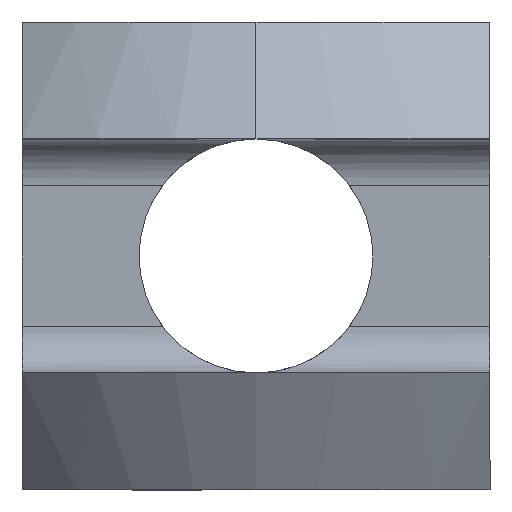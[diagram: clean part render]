
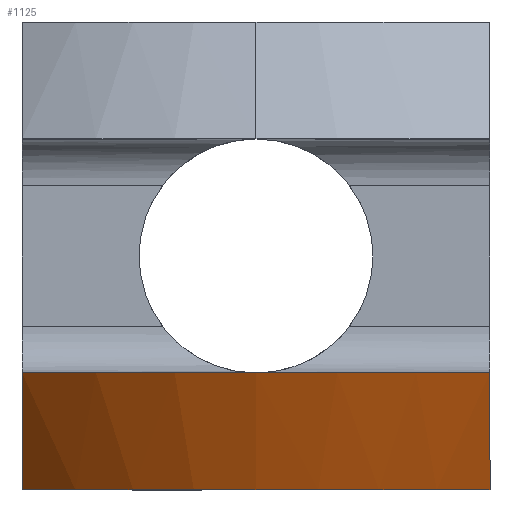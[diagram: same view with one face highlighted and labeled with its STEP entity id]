
A CAD part, left-side view. The second image highlights one B-rep face of the part: STEP entity #1125.
In plain terms, the highlighted conical face has half-angle 30 degrees and reference radius 10 mm.
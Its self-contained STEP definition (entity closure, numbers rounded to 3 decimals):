
#78 = EDGE_CURVE ( 'NONE', #79, #80, #340, .T. ) ;
#79 = VERTEX_POINT ( 'NONE', #336 ) ;
#80 = VERTEX_POINT ( 'NONE', #335 ) ;
#97 = EDGE_CURVE ( 'NONE', #98, #143, #313, .T. ) ;
#98 = VERTEX_POINT ( 'NONE', #314 ) ;
#143 = VERTEX_POINT ( 'NONE', #452 ) ;
#147 = EDGE_CURVE ( 'NONE', #80, #143, #444, .T. ) ;
#278 = CARTESIAN_POINT ( 'NONE',  ( -16., 0., -2.5 ) ) ;
#309 = DIRECTION ( 'NONE',  ( 1., 0., 0. ) ) ;
#310 = DIRECTION ( 'NONE',  ( 0., 0., 1. ) ) ;
#311 = CARTESIAN_POINT ( 'NONE',  ( -16., 0., -5. ) ) ;
#312 = AXIS2_PLACEMENT_3D ( 'NONE', #311, #310, #309 ) ;
#313 = CIRCLE ( 'NONE', #312, 8.557 ) ;
#314 = CARTESIAN_POINT ( 'NONE',  ( -22.944, 5., -5. ) ) ;
#335 = CARTESIAN_POINT ( 'NONE',  ( -24.66, -5., -2.5 ) ) ;
#336 = CARTESIAN_POINT ( 'NONE',  ( -24.66, 5., -2.5 ) ) ;
#337 = DIRECTION ( 'NONE',  ( 1., 0., 0. ) ) ;
#338 = DIRECTION ( 'NONE',  ( 0., 0., 1. ) ) ;
#339 = AXIS2_PLACEMENT_3D ( 'NONE', #278, #338, #337 ) ;
#340 = CIRCLE ( 'NONE', #339, 10. ) ;
#439 = CARTESIAN_POINT ( 'NONE',  ( -22.944, -5., -5. ) ) ;
#440 = CARTESIAN_POINT ( 'NONE',  ( -23.53, -5., -4.176 ) ) ;
#441 = CARTESIAN_POINT ( 'NONE',  ( -24.1, -5., -3.341 ) ) ;
#442 = CARTESIAN_POINT ( 'NONE',  ( -24.66, -5., -2.5 ) ) ;
#444 = B_SPLINE_CURVE_WITH_KNOTS ( 'NONE', 3,
 ( #442, #441, #440, #439 ),
 .UNSPECIFIED., .F., .F.,
 ( 4, 4 ),
 ( 0.007, 0.01 ),
 .UNSPECIFIED. ) ;
#452 = CARTESIAN_POINT ( 'NONE',  ( -22.944, -5., -5. ) ) ;
#650 = DIRECTION ( 'NONE',  ( 1., 0., 0. ) ) ;
#651 = DIRECTION ( 'NONE',  ( 0., 0., 1. ) ) ;
#652 = AXIS2_PLACEMENT_3D ( 'NONE', #654, #651, #650 ) ;
#654 = CARTESIAN_POINT ( 'NONE',  ( -16., 0., -2.5 ) ) ;
#655 = CONICAL_SURFACE ( 'NONE', #652, 10., 0.524 ) ;
#658 = FACE_OUTER_BOUND ( 'NONE', #1122, .T. ) ;
#731 = CARTESIAN_POINT ( 'NONE',  ( -24.66, 5., -2.5 ) ) ;
#732 = CARTESIAN_POINT ( 'NONE',  ( -24.1, 5., -3.341 ) ) ;
#733 = CARTESIAN_POINT ( 'NONE',  ( -23.53, 5., -4.176 ) ) ;
#734 = CARTESIAN_POINT ( 'NONE',  ( -22.944, 5., -5. ) ) ;
#736 = B_SPLINE_CURVE_WITH_KNOTS ( 'NONE', 3,
 ( #734, #733, #732, #731 ),
 .UNSPECIFIED., .F., .F.,
 ( 4, 4 ),
 ( 0.018, 0.021 ),
 .UNSPECIFIED. ) ;
#1117 = ORIENTED_EDGE ( 'NONE', *, *, #97, .T. ) ;
#1118 = ORIENTED_EDGE ( 'NONE', *, *, #147, .F. ) ;
#1122 = EDGE_LOOP ( 'NONE', ( #1124, #1123, #1117, #1118 ) ) ;
#1123 = ORIENTED_EDGE ( 'NONE', *, *, #1163, .F. ) ;
#1124 = ORIENTED_EDGE ( 'NONE', *, *, #78, .F. ) ;
#1125 = ADVANCED_FACE ( 'NONE', ( #658 ), #655, .T. ) ;
#1163 = EDGE_CURVE ( 'NONE', #98, #79, #736, .T. ) ;
